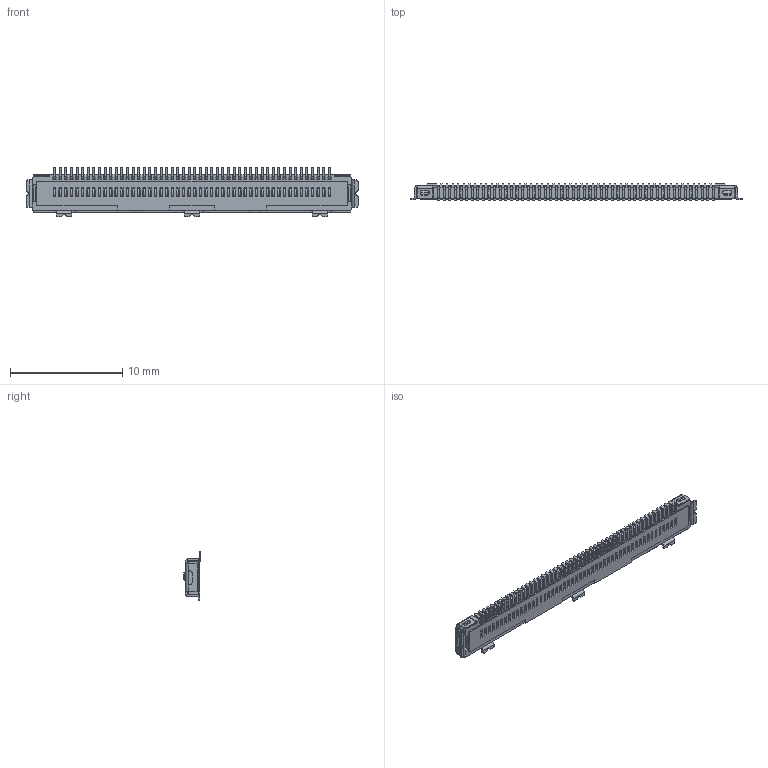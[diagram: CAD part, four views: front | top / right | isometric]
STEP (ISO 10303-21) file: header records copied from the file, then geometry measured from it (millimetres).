
FILE_DESCRIPTION((''),'2;1');
FILE_NAME('S-50398-050XX-XXX_ASM','2017-05-17T',('k28851'),(''),'PRO/ENGINEER BY PARAMETRIC TECHNOLOGY CORPORATION, 2009360','PRO/ENGINEER BY PARAMETRIC TECHNOLOGY CORPORATION, 2009360','');
FILE_SCHEMA(('CONFIG_CONTROL_DESIGN'));
Products named in the file (1): S-50398-050XX-XXX_ASM
Bounding box: 29.6 x 1.45 x 4.45 mm (x, y, z)
Volume: 75.9 mm3; surface area: 655.1 mm2
Topology: 1 solids, 1 shells, 4556 faces, 14724 edges, 9907 vertices
Faces by surface type: plane 3337, cylinder 1207, bspline 12
Entity records: 164103 total; most frequent: CARTESIAN_POINT 30866, ORIENTED_EDGE 29448, DIRECTION 27009, EDGE_CURVE 14724, VECTOR 10665, LINE 10665, VERTEX_POINT 9907, AXIS2_PLACEMENT_3D 8172
